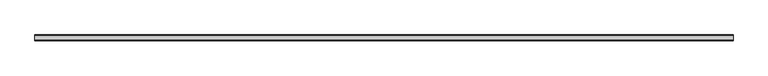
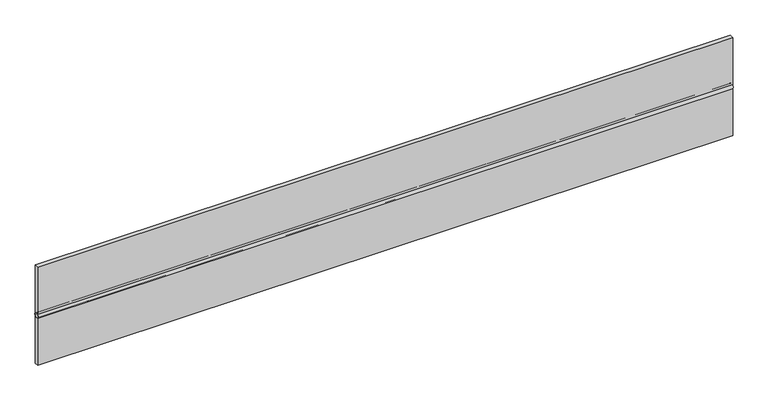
"""IFC4 building model written with IfcOpenShell, lengths in millimetres: proxy geometry, joint water stop - selon ligne plane : JWS - ép 20 mm - largeur 500 mm."""

from ifc_helpers import new_model, si_unit, point, frame, origin, origin_2d, place, context, project, spatial, polyline, circle_curve, trimmed, segment, composite_curve, outline, extrude, source, transform, mapped, element, save


def generic_models_2d9994c1(model_context):
    return source(origin(), model_context, "Body", "SweptSolid", [
        extrude(outline(composite_curve([segment(trimmed(circle_curve(origin_2d(), 14.0), [point((-10.0, -9.797959))], [point((-10.0, 9.797959))], False, "CARTESIAN"), True, "CONTINUOUS"), segment(polyline([(-10.0, 9.797959), (-10.0, 250.0), (10.0, 250.0), (10.0, 9.797959)]), True, "CONTINUOUS"), segment(trimmed(circle_curve(origin_2d(), 14.0), [point((10.0, 9.797959))], [point((10.0, -9.797959))], False, "CARTESIAN"), True, "CONTINUOUS"), segment(polyline([(10.0, -9.797959), (10.0, -250.0), (-10.0, -250.0), (-10.0, -9.797959)]), True, "CONTINUOUS")], self_intersect=False), holes=[composite_curve([segment(trimmed(circle_curve(origin_2d(), 10.0), [point((-10.0, 0.0))], [point((10.0, 0.0))], True, "CARTESIAN"), True, "CONTINUOUS"), segment(trimmed(circle_curve(origin_2d(), 10.0), [point((10.0, 0.0))], [point((-10.0, 0.0))], True, "CARTESIAN"), True, "CONTINUOUS")], self_intersect=False)]), frame((0.0, 0.0, 0.0), z_axis=(1.0, 0.0, 0.0), x_axis=(0.0, 1.0, 0.0)), (0.0, 0.0, 1.0), 3350.0),
    ])


if __name__ == "__main__":
    model = new_model("IFC4")
    model_context = context("Model", 3, world=origin())
    ifc_project = project(units=[si_unit("LENGTHUNIT", "METRE", prefix="MILLI")], contexts=[model_context])
    site = spatial("IfcSite", under=ifc_project)
    building = spatial("IfcBuilding", under=site)
    placement = place(None, origin())
    generic_models_shape = generic_models_2d9994c1(model_context)
    element("IfcBuildingElementProxy", 1, Name="joint water stop - selon ligne plane : JWS - ép 20 mm - largeur 500 mm", ObjectType="joint water stop - selon ligne plane : JWS - ép 20 mm - largeur 500 mm", at=placement, inside=building, context=model_context, shape_type="MappedRepresentation", body=[
        mapped(generic_models_shape, transform((0.0, 0.0, 0.0), x_axis=(1.0, 0.0, 0.0), y_axis=(0.0, 1.0, 0.0), z_axis=(0.0, 0.0, 1.0))),
    ])
    save(model, "model.ifc")
